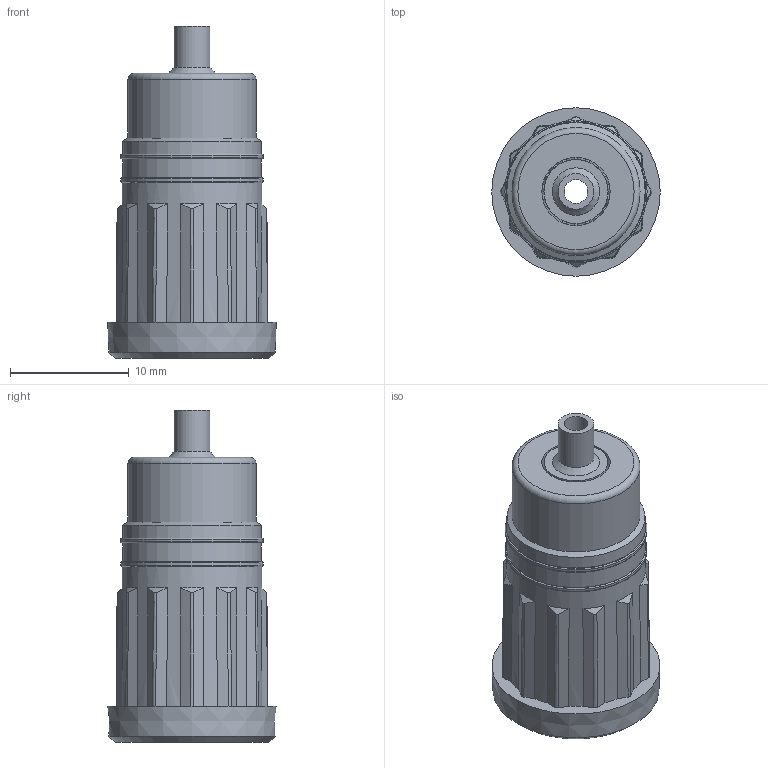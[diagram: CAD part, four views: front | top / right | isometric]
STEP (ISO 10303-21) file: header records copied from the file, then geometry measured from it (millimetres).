
FILE_DESCRIPTION (( 'STEP AP214' ), '1' );
FILE_NAME ('CT2245-4.STEP', '2017-10-11T17:04:47', ( '' ), ( '' ), 'SwSTEP 2.0', 'SolidWorks 2014', '' );
FILE_SCHEMA (( 'AUTOMOTIVE_DESIGN' ));
Length unit declared in the file: millimetre
Products named in the file (3): CT2245-4; 440-310_440-310-04; 440-3xx_440-304
Assembly tree (2 placements, depth 2):
  CT2245-4
    440-310_440-310-04
    440-3xx_440-304
Bounding box: 14.21 x 14.21 x 28 mm (x, y, z)
Volume: 1771.3 mm3; surface area: 3123.5 mm2
Topology: 2 solids, 2 shells, 215 faces, 526 edges, 342 vertices
Faces by surface type: plane 145, cone 43, bspline 12, torus 8, cylinder 7
Full cylindrical faces by diameter (mm): 2 x1, 3 x1, 4.1 x1, 5.4 x1, 10.8 x1, 12 x2
Entity records: 6362 total; most frequent: CARTESIAN_POINT 1440, ORIENTED_EDGE 980, DIRECTION 958, EDGE_CURVE 490, AXIS2_PLACEMENT_3D 356, VERTEX_POINT 334, EDGE_LOOP 274, LINE 246
